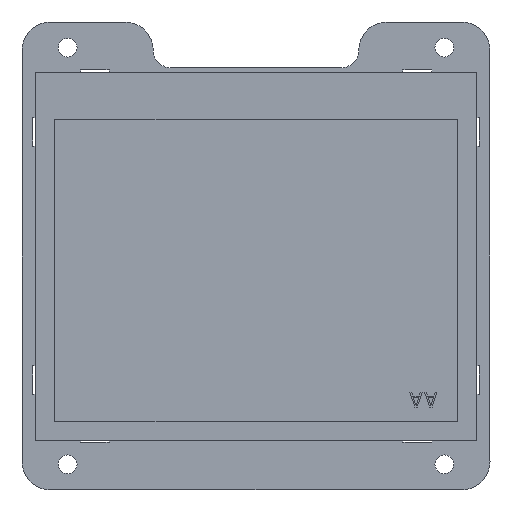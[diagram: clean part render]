
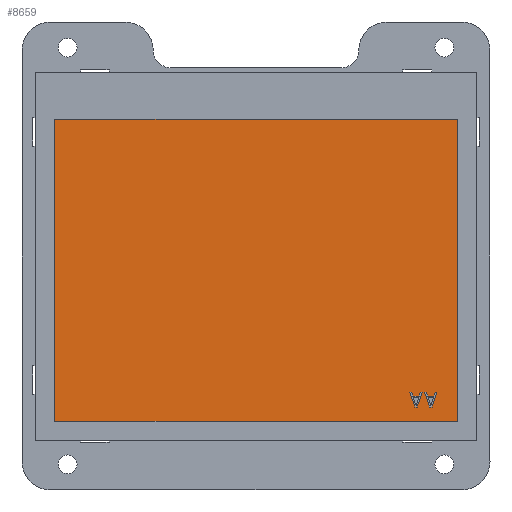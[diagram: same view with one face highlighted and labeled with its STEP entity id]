
A CAD part, front view. The second image highlights one B-rep face of the part: STEP entity #8659.
In plain terms, the highlighted planar face has unit normal (0, -1, 0) as drawn and (0, 1, 0) by its records, which use the part's own axes.
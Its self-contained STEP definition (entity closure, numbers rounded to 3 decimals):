
#7942=DIRECTION('',(1.,0.,0.));
#7943=VECTOR('',#7942,70.48);
#7944=CARTESIAN_POINT('',(-35.25,1.3,24.06));
#7945=LINE('',#7944,#7943);
#7949=DIRECTION('',(0.,0.,1.));
#7950=VECTOR('',#7949,52.96);
#7951=CARTESIAN_POINT('',(-35.25,1.3,-28.9));
#7952=LINE('',#7951,#7950);
#7956=DIRECTION('',(-1.,0.,0.));
#7957=VECTOR('',#7956,70.48);
#7958=CARTESIAN_POINT('',(35.23,1.3,-28.9));
#7959=LINE('',#7958,#7957);
#7963=DIRECTION('',(0.,0.,-1.));
#7964=VECTOR('',#7963,52.96);
#7965=CARTESIAN_POINT('',(35.23,1.3,24.06));
#7966=LINE('',#7965,#7964);
#7970=DIRECTION('',(0.316,0.,0.949));
#7971=VECTOR('',#7970,2.73);
#7972=CARTESIAN_POINT('',(-30.411,1.3,-26.363));
#7973=LINE('',#7972,#7971);
#7977=DIRECTION('',(1.,0.,0.));
#7978=VECTOR('',#7977,0.432);
#7979=CARTESIAN_POINT('',(-30.843,1.3,-26.363));
#7980=LINE('',#7979,#7978);
#7984=DIRECTION('',(0.316,0.,-0.949));
#7985=VECTOR('',#7984,2.73);
#7986=CARTESIAN_POINT('',(-31.706,1.3,-23.773));
#7987=LINE('',#7986,#7985);
#7991=DIRECTION('',(-1.,0.,0.));
#7992=VECTOR('',#7991,0.324);
#7993=CARTESIAN_POINT('',(-31.383,1.3,-23.773));
#7994=LINE('',#7993,#7992);
#7998=DIRECTION('',(-0.31,0.,0.951));
#7999=VECTOR('',#7998,0.696);
#8000=CARTESIAN_POINT('',(-31.167,1.3,-24.434));
#8001=LINE('',#8000,#7999);
#8005=DIRECTION('',(-1.,0.,0.));
#8006=VECTOR('',#8005,1.079);
#8007=CARTESIAN_POINT('',(-30.088,1.3,-24.434));
#8008=LINE('',#8007,#8006);
#8012=DIRECTION('',(-0.31,0.,-0.951));
#8013=VECTOR('',#8012,0.696);
#8014=CARTESIAN_POINT('',(-29.872,1.3,-23.773));
#8015=LINE('',#8014,#8013);
#8019=DIRECTION('',(-1.,0.,0.));
#8020=VECTOR('',#8019,0.324);
#8021=CARTESIAN_POINT('',(-29.548,1.3,-23.773));
#8022=LINE('',#8021,#8020);
#8047=DIRECTION('',(0.316,0.,0.949));
#8048=VECTOR('',#8047,2.73);
#8049=CARTESIAN_POINT('',(-27.821,1.3,-26.363));
#8050=LINE('',#8049,#8048);
#8054=DIRECTION('',(1.,0.,0.));
#8055=VECTOR('',#8054,0.432);
#8056=CARTESIAN_POINT('',(-28.253,1.3,-26.363));
#8057=LINE('',#8056,#8055);
#8061=DIRECTION('',(0.316,0.,-0.949));
#8062=VECTOR('',#8061,2.73);
#8063=CARTESIAN_POINT('',(-29.116,1.3,-23.773));
#8064=LINE('',#8063,#8062);
#8068=DIRECTION('',(-1.,0.,0.));
#8069=VECTOR('',#8068,0.324);
#8070=CARTESIAN_POINT('',(-28.793,1.3,-23.773));
#8071=LINE('',#8070,#8069);
#8075=DIRECTION('',(-0.31,0.,0.951));
#8076=VECTOR('',#8075,0.696);
#8077=CARTESIAN_POINT('',(-28.577,1.3,-24.434));
#8078=LINE('',#8077,#8076);
#8082=DIRECTION('',(-1.,0.,0.));
#8083=VECTOR('',#8082,1.079);
#8084=CARTESIAN_POINT('',(-27.498,1.3,-24.434));
#8085=LINE('',#8084,#8083);
#8089=DIRECTION('',(-0.31,0.,-0.951));
#8090=VECTOR('',#8089,0.696);
#8091=CARTESIAN_POINT('',(-27.282,1.3,-23.773));
#8092=LINE('',#8091,#8090);
#8096=DIRECTION('',(-1.,0.,0.));
#8097=VECTOR('',#8096,0.324);
#8098=CARTESIAN_POINT('',(-26.958,1.3,-23.773));
#8099=LINE('',#8098,#8097);
#8294=CARTESIAN_POINT('',(-35.25,1.3,24.06));
#8295=CARTESIAN_POINT('',(35.23,1.3,24.06));
#8296=VERTEX_POINT('',#8294);
#8297=VERTEX_POINT('',#8295);
#8298=CARTESIAN_POINT('',(35.23,1.3,-28.9));
#8299=VERTEX_POINT('',#8298);
#8300=CARTESIAN_POINT('',(-35.25,1.3,-28.9));
#8301=VERTEX_POINT('',#8300);
#8310=CARTESIAN_POINT('',(-30.411,1.3,-26.363));
#8311=CARTESIAN_POINT('',(-29.548,1.3,-23.773));
#8312=VERTEX_POINT('',#8310);
#8313=VERTEX_POINT('',#8311);
#8314=CARTESIAN_POINT('',(-29.872,1.3,-23.773));
#8315=VERTEX_POINT('',#8314);
#8316=CARTESIAN_POINT('',(-30.088,1.3,-24.434));
#8317=VERTEX_POINT('',#8316);
#8318=CARTESIAN_POINT('',(-31.167,1.3,-24.434));
#8319=VERTEX_POINT('',#8318);
#8320=CARTESIAN_POINT('',(-31.383,1.3,-23.773));
#8321=VERTEX_POINT('',#8320);
#8322=CARTESIAN_POINT('',(-31.706,1.3,-23.773));
#8323=VERTEX_POINT('',#8322);
#8338=CARTESIAN_POINT('',(-30.843,1.3,-26.363));
#8339=VERTEX_POINT('',#8338);
#8346=CARTESIAN_POINT('',(-27.821,1.3,-26.363));
#8347=CARTESIAN_POINT('',(-26.958,1.3,-23.773));
#8348=VERTEX_POINT('',#8346);
#8349=VERTEX_POINT('',#8347);
#8350=CARTESIAN_POINT('',(-27.282,1.3,-23.773));
#8351=VERTEX_POINT('',#8350);
#8352=CARTESIAN_POINT('',(-27.498,1.3,-24.434));
#8353=VERTEX_POINT('',#8352);
#8354=CARTESIAN_POINT('',(-28.577,1.3,-24.434));
#8355=VERTEX_POINT('',#8354);
#8356=CARTESIAN_POINT('',(-28.793,1.3,-23.773));
#8357=VERTEX_POINT('',#8356);
#8358=CARTESIAN_POINT('',(-29.116,1.3,-23.773));
#8359=VERTEX_POINT('',#8358);
#8360=CARTESIAN_POINT('',(-28.253,1.3,-26.363));
#8361=VERTEX_POINT('',#8360);
#8612=CARTESIAN_POINT('',(0.,1.3,0.));
#8613=DIRECTION('',(0.,1.,0.));
#8614=DIRECTION('',(-1.,0.,0.));
#8615=AXIS2_PLACEMENT_3D('',#8612,#8613,#8614);
#8616=PLANE('',#8615);
#8617=ORIENTED_EDGE('',*,*,#8564,.F.);
#8618=ORIENTED_EDGE('',*,*,#8579,.F.);
#8619=ORIENTED_EDGE('',*,*,#8593,.F.);
#8620=ORIENTED_EDGE('',*,*,#8606,.F.);
#8621=EDGE_LOOP('',(#8617,#8618,#8619,#8620));
#8622=FACE_OUTER_BOUND('',#8621,.F.);
#8624=ORIENTED_EDGE('',*,*,#8623,.F.);
#8626=ORIENTED_EDGE('',*,*,#8625,.F.);
#8628=ORIENTED_EDGE('',*,*,#8627,.F.);
#8630=ORIENTED_EDGE('',*,*,#8629,.F.);
#8632=ORIENTED_EDGE('',*,*,#8631,.F.);
#8634=ORIENTED_EDGE('',*,*,#8633,.F.);
#8636=ORIENTED_EDGE('',*,*,#8635,.F.);
#8638=ORIENTED_EDGE('',*,*,#8637,.F.);
#8639=EDGE_LOOP('',(#8624,#8626,#8628,#8630,#8632,#8634,#8636,#8638));
#8640=FACE_BOUND('',#8639,.F.);
#8642=ORIENTED_EDGE('',*,*,#8641,.F.);
#8644=ORIENTED_EDGE('',*,*,#8643,.F.);
#8646=ORIENTED_EDGE('',*,*,#8645,.F.);
#8648=ORIENTED_EDGE('',*,*,#8647,.F.);
#8650=ORIENTED_EDGE('',*,*,#8649,.F.);
#8652=ORIENTED_EDGE('',*,*,#8651,.F.);
#8654=ORIENTED_EDGE('',*,*,#8653,.F.);
#8656=ORIENTED_EDGE('',*,*,#8655,.F.);
#8657=EDGE_LOOP('',(#8642,#8644,#8646,#8648,#8650,#8652,#8654,#8656));
#8658=FACE_BOUND('',#8657,.F.);
#8564=EDGE_CURVE('',#8296,#8297,#7945,.T.);
#8579=EDGE_CURVE('',#8301,#8296,#7952,.T.);
#8593=EDGE_CURVE('',#8299,#8301,#7959,.T.);
#8606=EDGE_CURVE('',#8297,#8299,#7966,.T.);
#8623=EDGE_CURVE('',#8312,#8313,#7973,.T.);
#8625=EDGE_CURVE('',#8339,#8312,#7980,.T.);
#8627=EDGE_CURVE('',#8323,#8339,#7987,.T.);
#8629=EDGE_CURVE('',#8321,#8323,#7994,.T.);
#8631=EDGE_CURVE('',#8319,#8321,#8001,.T.);
#8633=EDGE_CURVE('',#8317,#8319,#8008,.T.);
#8635=EDGE_CURVE('',#8315,#8317,#8015,.T.);
#8637=EDGE_CURVE('',#8313,#8315,#8022,.T.);
#8641=EDGE_CURVE('',#8348,#8349,#8050,.T.);
#8643=EDGE_CURVE('',#8361,#8348,#8057,.T.);
#8645=EDGE_CURVE('',#8359,#8361,#8064,.T.);
#8647=EDGE_CURVE('',#8357,#8359,#8071,.T.);
#8649=EDGE_CURVE('',#8355,#8357,#8078,.T.);
#8651=EDGE_CURVE('',#8353,#8355,#8085,.T.);
#8653=EDGE_CURVE('',#8351,#8353,#8092,.T.);
#8655=EDGE_CURVE('',#8349,#8351,#8099,.T.);
#8659=ADVANCED_FACE('',(#8622,#8640,#8658),#8616,.T.);
